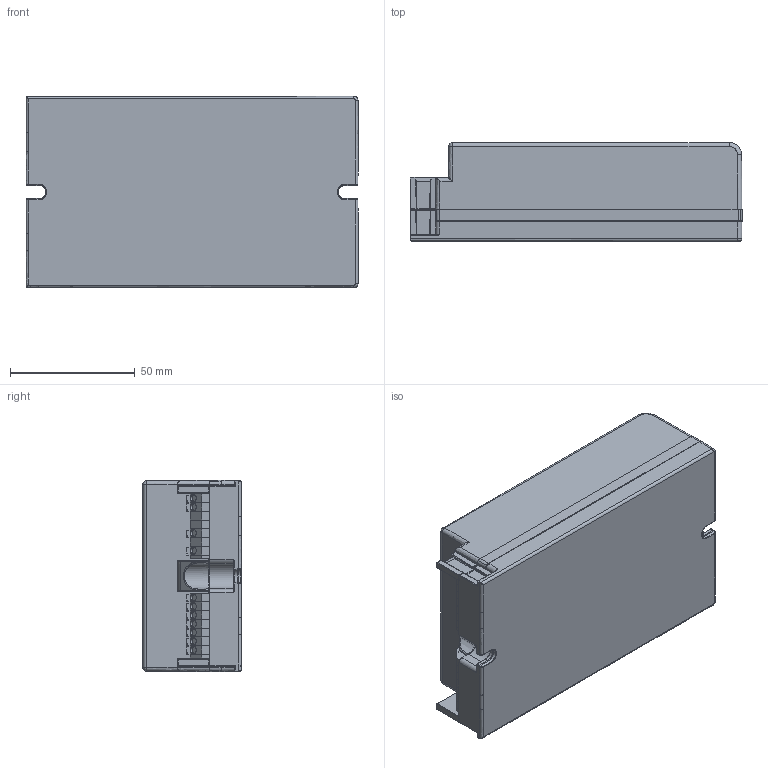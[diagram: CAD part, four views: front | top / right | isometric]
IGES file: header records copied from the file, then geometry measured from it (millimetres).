
Start section: SolidWorks IGES file using analytic representation for surfaces
Global section: file name: D:\ECTR_TEMP\OLQ-batchEngine\queue\temp\4186641swm000.igs; native system: SolidWorks 2017; preprocessor: SolidWorks 2017; author: SYSTEM; date: 200131.063625; units: millimetre
Bounding box: 133 x 39.5 x 76.7 mm (x, y, z)
Surface area: 39868.5 mm2 (no closed solid volume)
Topology: 0 solids, 0 shells, 968 faces, 6151 edges, 6111 vertices
Faces by surface type: bspline 659, revolution 309
